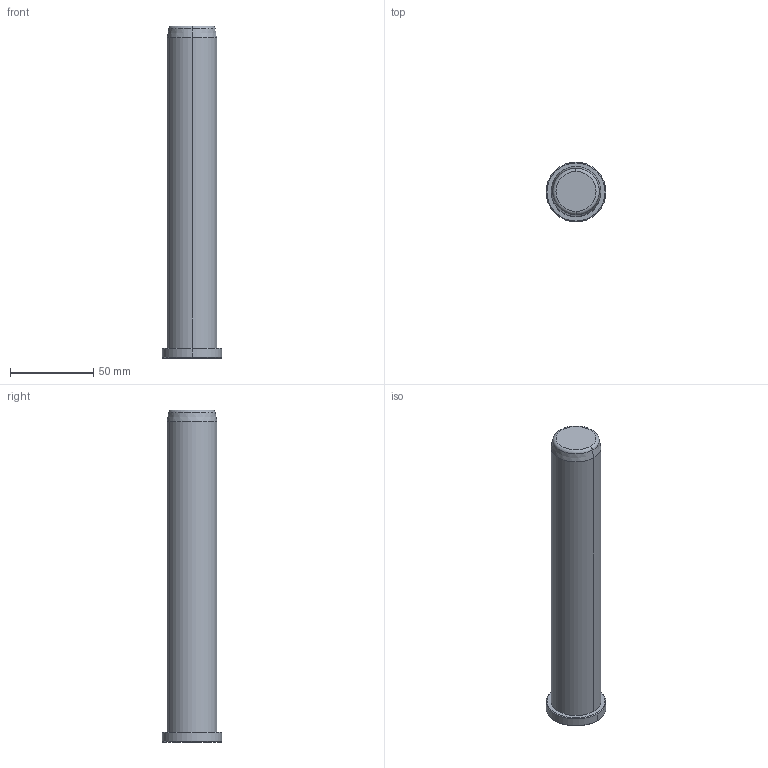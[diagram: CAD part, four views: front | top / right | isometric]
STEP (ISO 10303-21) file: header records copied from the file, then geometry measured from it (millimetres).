
FILE_DESCRIPTION((''),'2;1');
FILE_NAME('B81830200','2018-01-06T',('MANU'),(''),'PRO/ENGINEER BY PARAMETRIC TECHNOLOGY CORPORATION, 2012130','PRO/ENGINEER BY PARAMETRIC TECHNOLOGY CORPORATION, 2012130','');
FILE_SCHEMA(('CONFIG_CONTROL_DESIGN'));
Length unit declared in the file: millimetre
Products named in the file (1): B81830200
Bounding box: 36 x 36 x 200 mm (x, y, z)
Volume: 142766.1 mm3; surface area: 20752.4 mm2
Topology: 1 solids, 1 shells, 15 faces, 28 edges, 16 vertices
Faces by surface type: cone 6, cylinder 4, plane 3, torus 2
Entity records: 414 total; most frequent: DIRECTION 76, CARTESIAN_POINT 59, ORIENTED_EDGE 56, AXIS2_PLACEMENT_3D 33, EDGE_CURVE 28, CIRCLE 18, VERTEX_POINT 16, EDGE_LOOP 16
